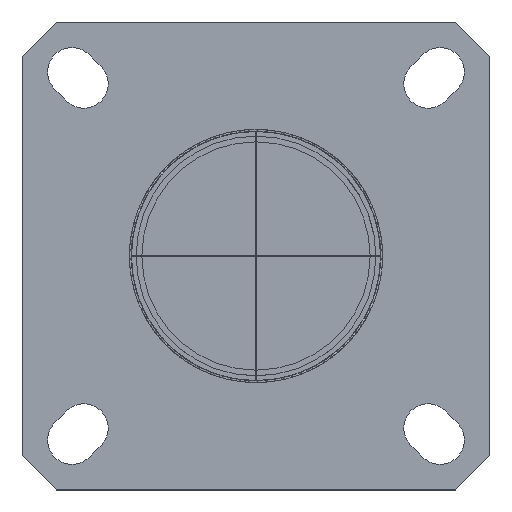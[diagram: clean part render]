
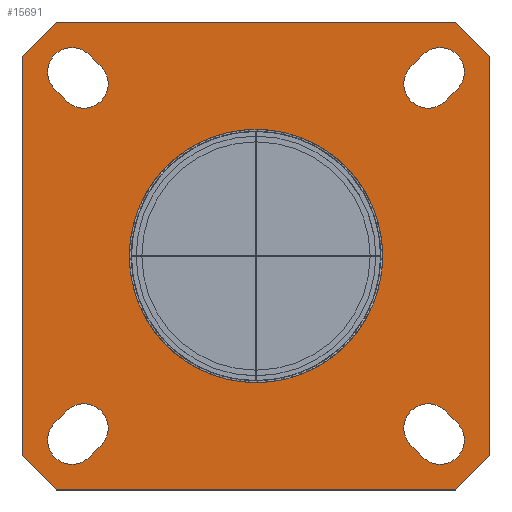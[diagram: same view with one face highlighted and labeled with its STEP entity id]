
A CAD part, top view. The second image highlights one B-rep face of the part: STEP entity #15691.
In plain terms, the highlighted planar face has unit normal (0, 0, 1).
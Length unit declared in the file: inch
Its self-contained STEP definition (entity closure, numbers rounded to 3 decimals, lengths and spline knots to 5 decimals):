
#5100=CARTESIAN_POINT('',(0.,0.,0.));
#5101=DIRECTION('',(0.,0.,1.));
#5102=DIRECTION('',(1.,0.,0.));
#5103=AXIS2_PLACEMENT_3D('',#5100,#5101,#5102);
#6639=DIRECTION('',(0.707,0.707,0.));
#6640=VECTOR('',#6639,0.128);
#6641=CARTESIAN_POINT('',(-0.616,0.52549,0.));
#6642=LINE('',#6641,#6640);
#6643=DIRECTION('',(1.,0.,0.));
#6644=VECTOR('',#6643,1.05098);
#6645=CARTESIAN_POINT('',(-0.52549,0.616,0.));
#6646=LINE('',#6645,#6644);
#6647=DIRECTION('',(0.707,-0.707,0.));
#6648=VECTOR('',#6647,0.128);
#6649=CARTESIAN_POINT('',(0.52549,0.616,0.));
#6650=LINE('',#6649,#6648);
#6651=DIRECTION('',(0.,-1.,0.));
#6652=VECTOR('',#6651,1.05098);
#6653=CARTESIAN_POINT('',(0.616,0.52549,0.));
#6654=LINE('',#6653,#6652);
#6655=DIRECTION('',(-0.707,-0.707,0.));
#6656=VECTOR('',#6655,0.128);
#6657=CARTESIAN_POINT('',(0.616,-0.52549,0.));
#6658=LINE('',#6657,#6656);
#6659=DIRECTION('',(-1.,0.,0.));
#6660=VECTOR('',#6659,1.05098);
#6661=CARTESIAN_POINT('',(0.52549,-0.616,0.));
#6662=LINE('',#6661,#6660);
#6663=DIRECTION('',(-0.707,0.707,0.));
#6664=VECTOR('',#6663,0.128);
#6665=CARTESIAN_POINT('',(-0.52549,-0.616,0.));
#6666=LINE('',#6665,#6664);
#6667=DIRECTION('',(0.,1.,0.));
#6668=VECTOR('',#6667,1.05098);
#6669=CARTESIAN_POINT('',(-0.616,-0.52549,0.));
#6670=LINE('',#6669,#6668);
#6671=DIRECTION('',(-0.707,-0.707,0.));
#6672=VECTOR('',#6671,0.04455);
#6673=CARTESIAN_POINT('',(-0.49825,-0.40775,0.));
#6674=LINE('',#6673,#6672);
#6675=CARTESIAN_POINT('',(-0.4845,-0.4845,0.));
#6676=DIRECTION('',(0.,0.,1.));
#6677=DIRECTION('',(-0.707,0.707,0.));
#6678=AXIS2_PLACEMENT_3D('',#6675,#6676,#6677);
#6680=DIRECTION('',(0.707,0.707,0.));
#6681=VECTOR('',#6680,0.04455);
#6682=CARTESIAN_POINT('',(-0.43925,-0.52975,0.));
#6683=LINE('',#6682,#6681);
#6684=CARTESIAN_POINT('',(-0.453,-0.453,0.));
#6685=DIRECTION('',(0.,0.,1.));
#6686=DIRECTION('',(0.707,-0.707,0.));
#6687=AXIS2_PLACEMENT_3D('',#6684,#6685,#6686);
#6689=DIRECTION('',(0.707,-0.707,0.));
#6690=VECTOR('',#6689,0.04455);
#6691=CARTESIAN_POINT('',(-0.52975,0.43925,0.));
#6692=LINE('',#6691,#6690);
#6693=CARTESIAN_POINT('',(-0.453,0.453,0.));
#6694=DIRECTION('',(0.,0.,1.));
#6695=DIRECTION('',(-0.707,-0.707,0.));
#6696=AXIS2_PLACEMENT_3D('',#6693,#6694,#6695);
#6698=DIRECTION('',(-0.707,0.707,0.));
#6699=VECTOR('',#6698,0.04455);
#6700=CARTESIAN_POINT('',(-0.40775,0.49825,0.));
#6701=LINE('',#6700,#6699);
#6702=CARTESIAN_POINT('',(-0.4845,0.4845,0.));
#6703=DIRECTION('',(0.,0.,1.));
#6704=DIRECTION('',(0.707,0.707,0.));
#6705=AXIS2_PLACEMENT_3D('',#6702,#6703,#6704);
#6707=DIRECTION('',(-0.707,-0.707,0.));
#6708=VECTOR('',#6707,0.04455);
#6709=CARTESIAN_POINT('',(0.43925,0.52975,0.));
#6710=LINE('',#6709,#6708);
#6711=CARTESIAN_POINT('',(0.453,0.453,0.));
#6712=DIRECTION('',(0.,0.,1.));
#6713=DIRECTION('',(-0.707,0.707,0.));
#6714=AXIS2_PLACEMENT_3D('',#6711,#6712,#6713);
#6716=DIRECTION('',(0.707,0.707,0.));
#6717=VECTOR('',#6716,0.04455);
#6718=CARTESIAN_POINT('',(0.49825,0.40775,0.));
#6719=LINE('',#6718,#6717);
#6720=CARTESIAN_POINT('',(0.4845,0.4845,0.));
#6721=DIRECTION('',(0.,0.,1.));
#6722=DIRECTION('',(0.707,-0.707,0.));
#6723=AXIS2_PLACEMENT_3D('',#6720,#6721,#6722);
#6725=CARTESIAN_POINT('',(0.453,-0.453,0.));
#6726=DIRECTION('',(0.,0.,1.));
#6727=DIRECTION('',(0.707,0.707,0.));
#6728=AXIS2_PLACEMENT_3D('',#6725,#6726,#6727);
#6730=DIRECTION('',(0.707,-0.707,0.));
#6731=VECTOR('',#6730,0.04455);
#6732=CARTESIAN_POINT('',(0.40775,-0.49825,0.));
#6733=LINE('',#6732,#6731);
#6734=CARTESIAN_POINT('',(0.4845,-0.4845,0.));
#6735=DIRECTION('',(0.,0.,1.));
#6736=DIRECTION('',(-0.707,-0.707,0.));
#6737=AXIS2_PLACEMENT_3D('',#6734,#6735,#6736);
#6739=DIRECTION('',(-0.707,0.707,0.));
#6740=VECTOR('',#6739,0.04455);
#6741=CARTESIAN_POINT('',(0.52975,-0.43925,0.));
#6742=LINE('',#6741,#6740);
#6943=CARTESIAN_POINT('',(0.,0.,0.));
#6944=DIRECTION('',(0.,0.,1.));
#6945=DIRECTION('',(-1.,0.,0.));
#6946=AXIS2_PLACEMENT_3D('',#6943,#6944,#6945);
#11866=CARTESIAN_POINT('',(-0.616,0.52549,0.));
#11867=CARTESIAN_POINT('',(-0.52549,0.616,0.));
#11868=VERTEX_POINT('',#11866);
#11869=VERTEX_POINT('',#11867);
#11870=CARTESIAN_POINT('',(0.52549,0.616,0.));
#11871=VERTEX_POINT('',#11870);
#11872=CARTESIAN_POINT('',(0.616,0.52549,0.));
#11873=VERTEX_POINT('',#11872);
#11874=CARTESIAN_POINT('',(0.616,-0.52549,0.));
#11875=VERTEX_POINT('',#11874);
#11876=CARTESIAN_POINT('',(0.52549,-0.616,0.));
#11877=VERTEX_POINT('',#11876);
#11878=CARTESIAN_POINT('',(-0.52549,-0.616,0.));
#11879=VERTEX_POINT('',#11878);
#11880=CARTESIAN_POINT('',(-0.616,-0.52549,0.));
#11881=VERTEX_POINT('',#11880);
#11882=CARTESIAN_POINT('',(-0.49825,-0.40775,0.));
#11883=CARTESIAN_POINT('',(-0.52975,-0.43925,0.));
#11884=VERTEX_POINT('',#11882);
#11885=VERTEX_POINT('',#11883);
#11886=CARTESIAN_POINT('',(-0.43925,-0.52975,0.));
#11887=VERTEX_POINT('',#11886);
#11888=CARTESIAN_POINT('',(-0.40775,-0.49825,0.));
#11889=VERTEX_POINT('',#11888);
#11890=CARTESIAN_POINT('',(-0.52975,0.43925,0.));
#11891=CARTESIAN_POINT('',(-0.49825,0.40775,0.));
#11892=VERTEX_POINT('',#11890);
#11893=VERTEX_POINT('',#11891);
#11894=CARTESIAN_POINT('',(-0.40775,0.49825,0.));
#11895=VERTEX_POINT('',#11894);
#11896=CARTESIAN_POINT('',(-0.43925,0.52975,0.));
#11897=VERTEX_POINT('',#11896);
#11898=CARTESIAN_POINT('',(0.43925,0.52975,0.));
#11899=CARTESIAN_POINT('',(0.40775,0.49825,0.));
#11900=VERTEX_POINT('',#11898);
#11901=VERTEX_POINT('',#11899);
#11902=CARTESIAN_POINT('',(0.49825,0.40775,0.));
#11903=VERTEX_POINT('',#11902);
#11904=CARTESIAN_POINT('',(0.52975,0.43925,0.));
#11905=VERTEX_POINT('',#11904);
#11906=CARTESIAN_POINT('',(0.49825,-0.40775,0.));
#11907=CARTESIAN_POINT('',(0.40775,-0.49825,0.));
#11908=VERTEX_POINT('',#11906);
#11909=VERTEX_POINT('',#11907);
#11910=CARTESIAN_POINT('',(0.43925,-0.52975,0.));
#11911=VERTEX_POINT('',#11910);
#11912=CARTESIAN_POINT('',(0.52975,-0.43925,0.));
#11913=VERTEX_POINT('',#11912);
#11962=CARTESIAN_POINT('',(0.333,0.,0.));
#11963=CARTESIAN_POINT('',(-0.333,0.,0.));
#11964=VERTEX_POINT('',#11962);
#11965=VERTEX_POINT('',#11963);
#15623=CARTESIAN_POINT('',(0.,0.,0.));
#15624=DIRECTION('',(0.,0.,-1.));
#15625=DIRECTION('',(0.,-1.,0.));
#15626=AXIS2_PLACEMENT_3D('',#15623,#15624,#15625);
#15627=PLANE('',#15626);
#15629=ORIENTED_EDGE('',*,*,#15628,.T.);
#15631=ORIENTED_EDGE('',*,*,#15630,.T.);
#15633=ORIENTED_EDGE('',*,*,#15632,.T.);
#15635=ORIENTED_EDGE('',*,*,#15634,.T.);
#15637=ORIENTED_EDGE('',*,*,#15636,.T.);
#15639=ORIENTED_EDGE('',*,*,#15638,.T.);
#15641=ORIENTED_EDGE('',*,*,#15640,.T.);
#15643=ORIENTED_EDGE('',*,*,#15642,.T.);
#15644=EDGE_LOOP('',(#15629,#15631,#15633,#15635,#15637,#15639,#15641,#15643));
#15645=FACE_OUTER_BOUND('',#15644,.F.);
#15647=ORIENTED_EDGE('',*,*,#15646,.T.);
#15649=ORIENTED_EDGE('',*,*,#15648,.T.);
#15651=ORIENTED_EDGE('',*,*,#15650,.T.);
#15653=ORIENTED_EDGE('',*,*,#15652,.T.);
#15654=EDGE_LOOP('',(#15647,#15649,#15651,#15653));
#15655=FACE_BOUND('',#15654,.F.);
#15657=ORIENTED_EDGE('',*,*,#15656,.T.);
#15659=ORIENTED_EDGE('',*,*,#15658,.T.);
#15661=ORIENTED_EDGE('',*,*,#15660,.T.);
#15663=ORIENTED_EDGE('',*,*,#15662,.T.);
#15664=EDGE_LOOP('',(#15657,#15659,#15661,#15663));
#15665=FACE_BOUND('',#15664,.F.);
#15667=ORIENTED_EDGE('',*,*,#15666,.T.);
#15669=ORIENTED_EDGE('',*,*,#15668,.T.);
#15671=ORIENTED_EDGE('',*,*,#15670,.T.);
#15673=ORIENTED_EDGE('',*,*,#15672,.T.);
#15674=EDGE_LOOP('',(#15667,#15669,#15671,#15673));
#15675=FACE_BOUND('',#15674,.F.);
#15677=ORIENTED_EDGE('',*,*,#15676,.T.);
#15679=ORIENTED_EDGE('',*,*,#15678,.T.);
#15681=ORIENTED_EDGE('',*,*,#15680,.T.);
#15683=ORIENTED_EDGE('',*,*,#15682,.T.);
#15684=EDGE_LOOP('',(#15677,#15679,#15681,#15683));
#15685=FACE_BOUND('',#15684,.F.);
#15686=ORIENTED_EDGE('',*,*,#15120,.T.);
#15688=ORIENTED_EDGE('',*,*,#15687,.T.);
#15689=EDGE_LOOP('',(#15686,#15688));
#15690=FACE_BOUND('',#15689,.F.);
#15691=ADVANCED_FACE('',(#15645,#15655,#15665,#15675,#15685,#15690),#15627,.F.);
#5104=CIRCLE('',#5103,0.333);
#6679=CIRCLE('',#6678,0.064);
#6688=CIRCLE('',#6687,0.064);
#6697=CIRCLE('',#6696,0.064);
#6706=CIRCLE('',#6705,0.064);
#6715=CIRCLE('',#6714,0.064);
#6724=CIRCLE('',#6723,0.064);
#6729=CIRCLE('',#6728,0.064);
#6738=CIRCLE('',#6737,0.064);
#6947=CIRCLE('',#6946,0.333);
#15120=EDGE_CURVE('',#11964,#11965,#5104,.T.);
#15628=EDGE_CURVE('',#11868,#11869,#6642,.T.);
#15630=EDGE_CURVE('',#11869,#11871,#6646,.T.);
#15632=EDGE_CURVE('',#11871,#11873,#6650,.T.);
#15634=EDGE_CURVE('',#11873,#11875,#6654,.T.);
#15636=EDGE_CURVE('',#11875,#11877,#6658,.T.);
#15638=EDGE_CURVE('',#11877,#11879,#6662,.T.);
#15640=EDGE_CURVE('',#11879,#11881,#6666,.T.);
#15642=EDGE_CURVE('',#11881,#11868,#6670,.T.);
#15646=EDGE_CURVE('',#11884,#11885,#6674,.T.);
#15648=EDGE_CURVE('',#11885,#11887,#6679,.T.);
#15650=EDGE_CURVE('',#11887,#11889,#6683,.T.);
#15652=EDGE_CURVE('',#11889,#11884,#6688,.T.);
#15656=EDGE_CURVE('',#11892,#11893,#6692,.T.);
#15658=EDGE_CURVE('',#11893,#11895,#6697,.T.);
#15660=EDGE_CURVE('',#11895,#11897,#6701,.T.);
#15662=EDGE_CURVE('',#11897,#11892,#6706,.T.);
#15666=EDGE_CURVE('',#11900,#11901,#6710,.T.);
#15668=EDGE_CURVE('',#11901,#11903,#6715,.T.);
#15670=EDGE_CURVE('',#11903,#11905,#6719,.T.);
#15672=EDGE_CURVE('',#11905,#11900,#6724,.T.);
#15676=EDGE_CURVE('',#11908,#11909,#6729,.T.);
#15678=EDGE_CURVE('',#11909,#11911,#6733,.T.);
#15680=EDGE_CURVE('',#11911,#11913,#6738,.T.);
#15682=EDGE_CURVE('',#11913,#11908,#6742,.T.);
#15687=EDGE_CURVE('',#11965,#11964,#6947,.T.);
